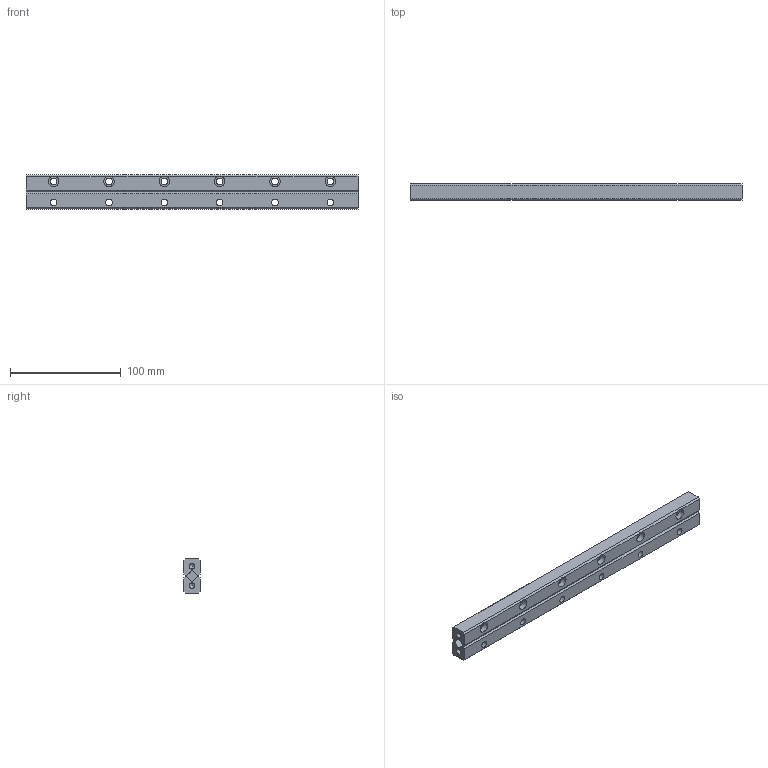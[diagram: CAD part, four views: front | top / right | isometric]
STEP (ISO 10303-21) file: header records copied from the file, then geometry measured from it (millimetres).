
FILE_DESCRIPTION((''),'2;1');
FILE_NAME('D:\製品 (図面)\カタログ用3D\リニアガイド関連\STEP形式\ACS6\ACS6300.stp','2010-07-29T15:43:56',('Tsuchiya'),(''),'Autodesk Inventor 10','Autodesk Inventor 10','');
FILE_SCHEMA(('AUTOMOTIVE_DESIGN { 1 0 10303 214 1 1 1 1 }'));
Length unit declared in the file: millimetre
Products named in the file (4): ACS6300; ACS63001; ACS63002; ACS63003
Assembly tree (3 placements, depth 2):
  ACS6300
    ACS63001
    ACS63002
    ACS63003
Bounding box: 300 x 15 x 31 mm (x, y, z)
Volume: 121130.2 mm3; surface area: 49130.4 mm2
Topology: 3 solids, 3 shells, 98 faces, 262 edges, 174 vertices
Faces by surface type: plane 52, bspline 40, cylinder 4, cone 2
Full cylindrical faces by diameter (mm): 5 x2
Entity records: 3255 total; most frequent: CARTESIAN_POINT 985, ORIENTED_EDGE 424, DIRECTION 414, EDGE_CURVE 212, EDGE_LOOP 158, VERTEX_POINT 156, VECTOR 140, LINE 140
